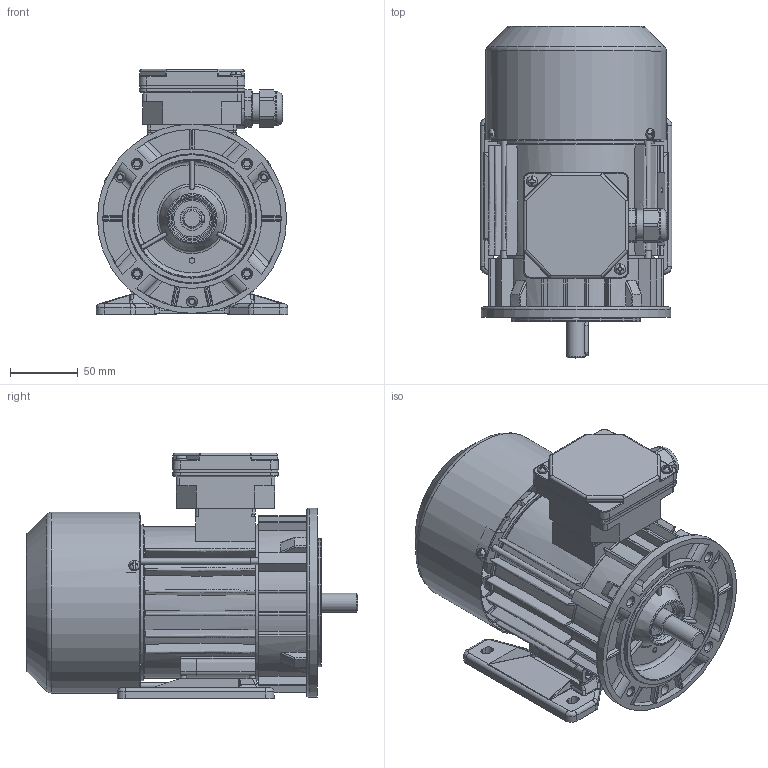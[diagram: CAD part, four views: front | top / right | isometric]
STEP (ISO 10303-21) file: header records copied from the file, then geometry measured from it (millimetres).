
FILE_DESCRIPTION(/* description */ ('Unknown'),/* implementation_level */ '2;1');
FILE_NAME(/* name */ '2SIEL71-8B1',/* time_stamp */ '2021-04-13T15:28:07+02:00',/* author */ ('Unknown'),/* organization */ ('Unknown'),/* preprocessor_version */ 'ST-DEVELOPER v16.7',/* originating_system */ 'Solid Edge',/* authorisation */ 'Unknown');
FILE_SCHEMA (('AP203_CONFIGURATION_CONTROLLED_3D_DESIGN_OF_MECHANICAL_PARTS_AND_ASSEMBLIES_MIM_LF { 1 0 10303 203 3 1 4 }','AUTOMOTIVE_DESIGN {1 0 10303 214 3 1 1}'));
Products named in the file (1): 2SIEL71-8B1
Bounding box: 141.92 x 245.47 x 181.48 mm (x, y, z)
Volume: 750514.5 mm3; surface area: 436090.5 mm2
Topology: 1 solids, 1 shells, 2634 faces, 7390 edges, 4741 vertices
Faces by surface type: plane 1087, cylinder 759, bspline 386, torus 203, cone 165, sphere 34
Full cylindrical faces by diameter (mm): 2 x2, 2.4 x2, 3.7 x4, 3.8 x4, 4 x3, 4.134 x3, 4.6 x3, 4.8 x2, 5 x5, 5.499 x3, 5.799 x4, 6.799 x4, 6.999 x1, 7.999 x9, 13.999 x1, 15.898 x1, 16.098 x1, 16.498 x1, 16.998 x2, 17.398 x2, 21.998 x2, 22.298 x1, 22.498 x1, 22.998 x1, 23.098 x1, 24.496 x4, 24.997 x1, 26.997 x1, 27.997 x1, 29.997 x1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
Entity records: 112669 total; most frequent: CARTESIAN_POINT 30751, ORIENTED_EDGE 14024, DIRECTION 12157, EDGE_CURVE 7012, VERTEX_POINT 4612, AXIS2_PLACEMENT_3D 4582, FACE_BOUND 3082, EDGE_LOOP 3078
